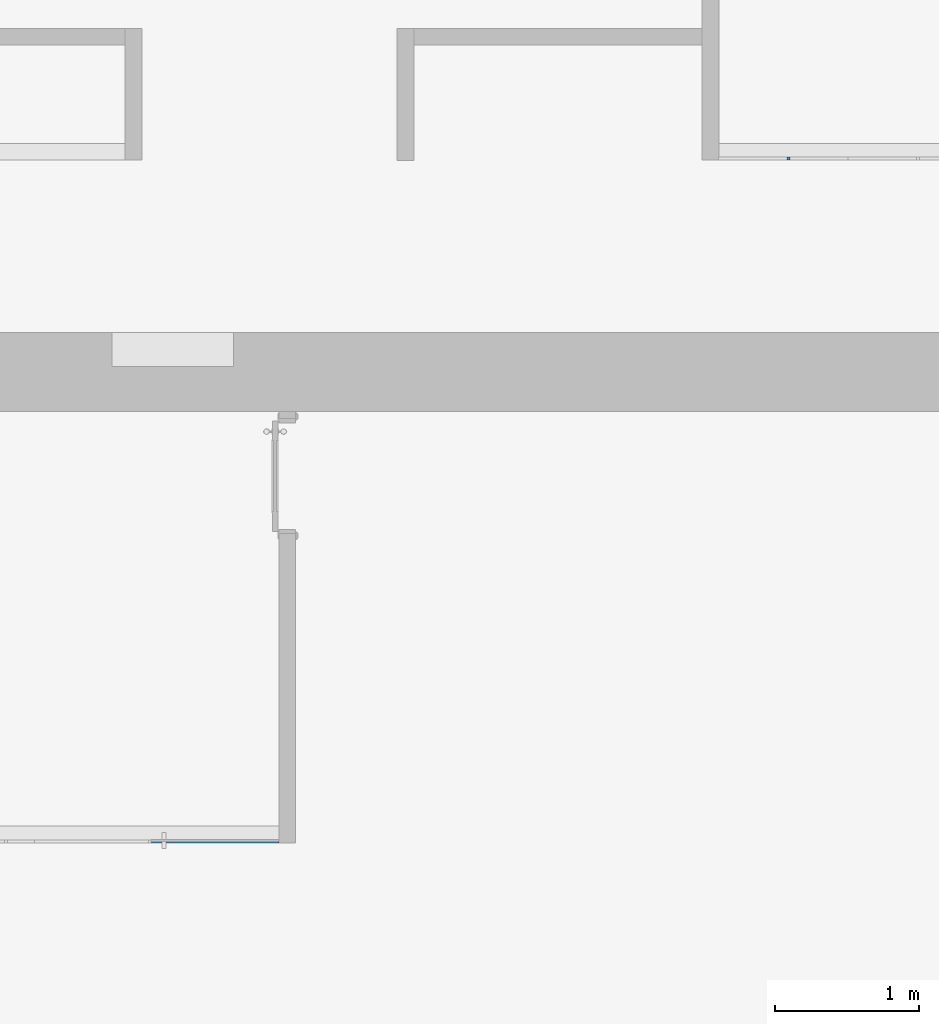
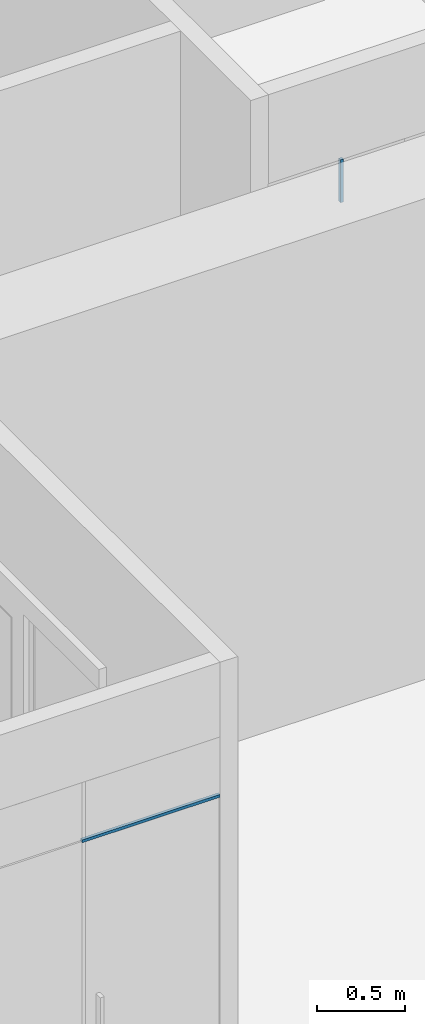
# One storey, part 5 of 49: 2 members, 2 elements without a shape of their own.
"""IFC2X3 building model written with IfcOpenShell, lengths in millimetres."""

from ifc_helpers import new_model, entity, si_unit, converted_unit, derived_unit, direction, frame, origin, origin_2d_with_axis, place, context, subcontext, project, spatial, rectangle, extrude, source, transform, mapped, material, type_object, type_shapes, element, aggregate, save


model = new_model("IFC2X3")

# Units and contexts
model_context = context("Model", 3, precision=0.01, world=origin(), true_north=direction((6.12303176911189e-17, 1.0)))
body_context = subcontext(model_context, "Body", "Model", "MODEL_VIEW")
ifc_project = project(units=[si_unit("LENGTHUNIT", "METRE", prefix="MILLI"), si_unit("AREAUNIT", "SQUARE_METRE"), si_unit("VOLUMEUNIT", "CUBIC_METRE"), converted_unit("PLANEANGLEUNIT", "DEGREE", entity("IfcRatioMeasure", 0.0174532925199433), si_unit("PLANEANGLEUNIT", "RADIAN"), dimensions=[0, 0, 0, 0, 0, 0, 0]), si_unit("MASSUNIT", "GRAM", prefix="KILO"), derived_unit("MASSDENSITYUNIT", [(si_unit("MASSUNIT", "GRAM", prefix="KILO"), 1), (si_unit("LENGTHUNIT", "METRE"), -3)]), si_unit("TIMEUNIT", "SECOND"), si_unit("FREQUENCYUNIT", "HERTZ"), si_unit("THERMODYNAMICTEMPERATUREUNIT", "DEGREE_CELSIUS"), derived_unit("THERMALTRANSMITTANCEUNIT", [(si_unit("MASSUNIT", "GRAM", prefix="KILO"), 1), (si_unit("THERMODYNAMICTEMPERATUREUNIT", "KELVIN"), -1), (si_unit("TIMEUNIT", "SECOND"), -3)]), derived_unit("VOLUMETRICFLOWRATEUNIT", [(si_unit("LENGTHUNIT", "METRE"), 3), (si_unit("TIMEUNIT", "SECOND"), -1)]), si_unit("ELECTRICCURRENTUNIT", "AMPERE"), si_unit("ELECTRICVOLTAGEUNIT", "VOLT"), si_unit("POWERUNIT", "WATT"), si_unit("FORCEUNIT", "NEWTON", prefix="KILO"), si_unit("ILLUMINANCEUNIT", "LUX"), si_unit("LUMINOUSFLUXUNIT", "LUMEN"), si_unit("LUMINOUSINTENSITYUNIT", "CANDELA"), derived_unit("USERDEFINED", [(si_unit("MASSUNIT", "GRAM", prefix="KILO"), -1), (si_unit("LENGTHUNIT", "METRE"), -2), (si_unit("TIMEUNIT", "SECOND"), 3), (si_unit("LUMINOUSFLUXUNIT", "LUMEN"), 1)]), derived_unit("LINEARVELOCITYUNIT", [(si_unit("LENGTHUNIT", "METRE"), 1), (si_unit("TIMEUNIT", "SECOND"), -1)]), si_unit("PRESSUREUNIT", "PASCAL"), derived_unit("USERDEFINED", [(si_unit("LENGTHUNIT", "METRE"), -2), (si_unit("MASSUNIT", "GRAM", prefix="KILO"), 1), (si_unit("TIMEUNIT", "SECOND"), -2)])], contexts=[model_context])

# Site, building, storey
site_placement = place(None, frame((-151.875543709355, 2715.0, 0.0)))
site = spatial("IfcSite", under=ifc_project, at=site_placement, Name="Surface", CompositionType="ELEMENT")
building_placement = place(site_placement, origin())
building = spatial("IfcBuilding", under=site, at=building_placement, CompositionType="ELEMENT")
storey_placement = place(building_placement, origin())
storey = spatial("IfcBuildingStorey", under=building, at=storey_placement, Name="1 korrus", CompositionType="ELEMENT", Elevation=3.0969999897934e-10)

# Curtain wall, member
curtain_wall_type_1 = type_object("IfcCurtainWallType", Name="Curtain Wall:Klaassein KLS-01", PredefinedType="NOTDEFINED")
curtain_wall_1_placement = place(storey_placement, origin())
curtain_wall_1 = element("IfcCurtainWall", 1, at=curtain_wall_1_placement, inside=storey, type_object=curtain_wall_type_1, Name="Curtain Wall:Klaassein KLS-01", ObjectType="Curtain Wall:Klaassein KLS-01")
ifc_material = material(Name="__Uks_hele tamm")
member_type_1 = type_object("IfcMemberType", Name="20 x 20mm", PredefinedType="MEMBER")
shared_shape_1 = source(origin(), body_context, "Body", "SweptSolid", [
    extrude(rectangle(XDim=20.0, YDim=20.0, at=origin_2d_with_axis()), frame((0.0, 0.0, -908.0), z_axis=(0.0, 0.0, 1.0), x_axis=(0.0, -1.0, 0.0)), (0.0, 0.0, 1.0), 907.999999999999),
])
type_shapes(member_type_1, [shared_shape_1])
member_1_placement = place(storey_placement, frame((19653.2710850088, 3017.49999999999, 2090.0), z_axis=(1.0, 0.0, 0.0), x_axis=(0.0, 0.0, 1.0)))
member_1 = element("IfcMember", 2, at=member_1_placement, type_object=member_type_1, material=ifc_material, Name="Rectangular Mullion:20 x 20mm", ObjectType="20 x 20mm", context=body_context, shape_type="MappedRepresentation", body=[
    mapped(shared_shape_1, transform((0.0, 0.0, 0.0), scale=1.0)),
])
aggregate(curtain_wall_1, [member_1])

curtain_wall_type_2 = type_object("IfcCurtainWallType", Name="Curtain Wall:Klaassein KLS-03", PredefinedType="NOTDEFINED")
curtain_wall_2_placement = place(storey_placement, origin())
curtain_wall_2 = element("IfcCurtainWall", 3, at=curtain_wall_2_placement, inside=storey, type_object=curtain_wall_type_2, Name="Curtain Wall:Klaassein KLS-03", ObjectType="Curtain Wall:Klaassein KLS-03")
member_type_2 = type_object("IfcMemberType", Name="20 x 20mm", PredefinedType="MEMBER")
shared_shape_2 = source(origin(), body_context, "Body", "SweptSolid", [
    extrude(rectangle(XDim=20.0, YDim=20.0, at=origin_2d_with_axis()), frame((0.0, 0.0, -300.0), z_axis=(0.0, 0.0, 1.0), x_axis=(0.0, -1.0, 0.0)), (0.0, 0.0, 1.0), 299.999999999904),
])
type_shapes(member_type_2, [shared_shape_2])
member_2_placement = place(storey_placement, frame((23201.2300720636, 7770.0, 2100.0), z_axis=(0.0, 0.0, -1.0), x_axis=(1.0, 0.0, 0.0)))
member_2 = element("IfcMember", 4, at=member_2_placement, type_object=member_type_2, material=ifc_material, Name="Rectangular Mullion:20 x 20mm", ObjectType="20 x 20mm", context=body_context, shape_type="MappedRepresentation", body=[
    mapped(shared_shape_2, transform((0.0, 0.0, 0.0), scale=1.0)),
])
aggregate(curtain_wall_2, [member_2])

save(model, "model.ifc")
